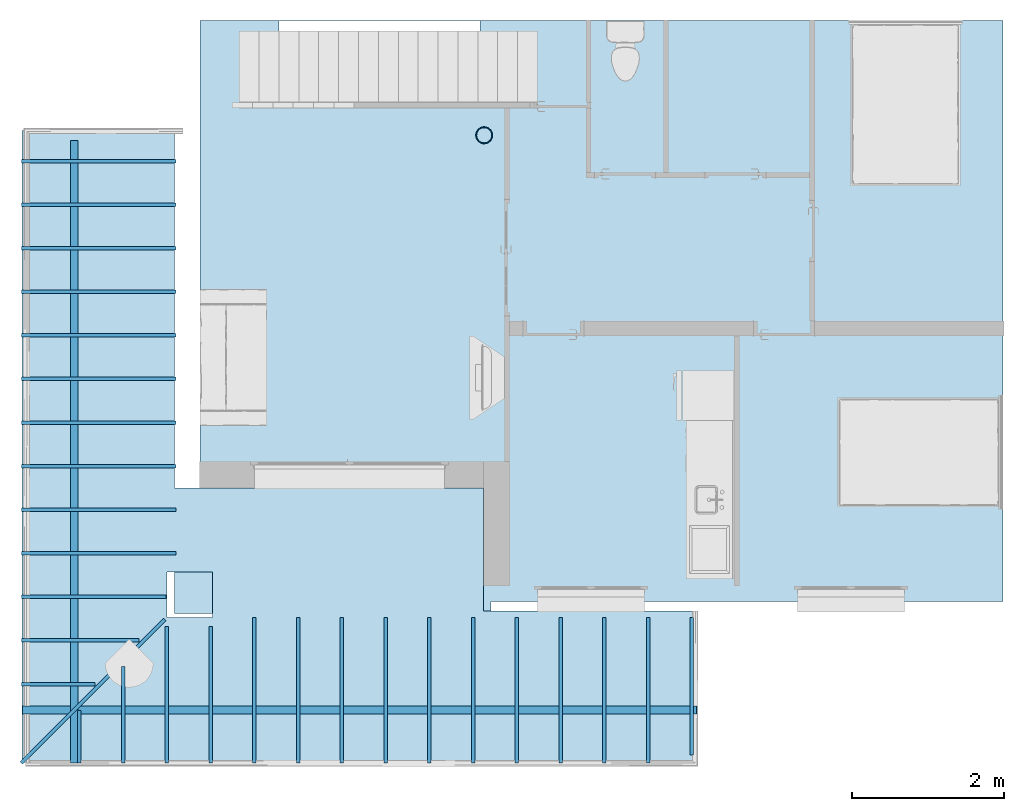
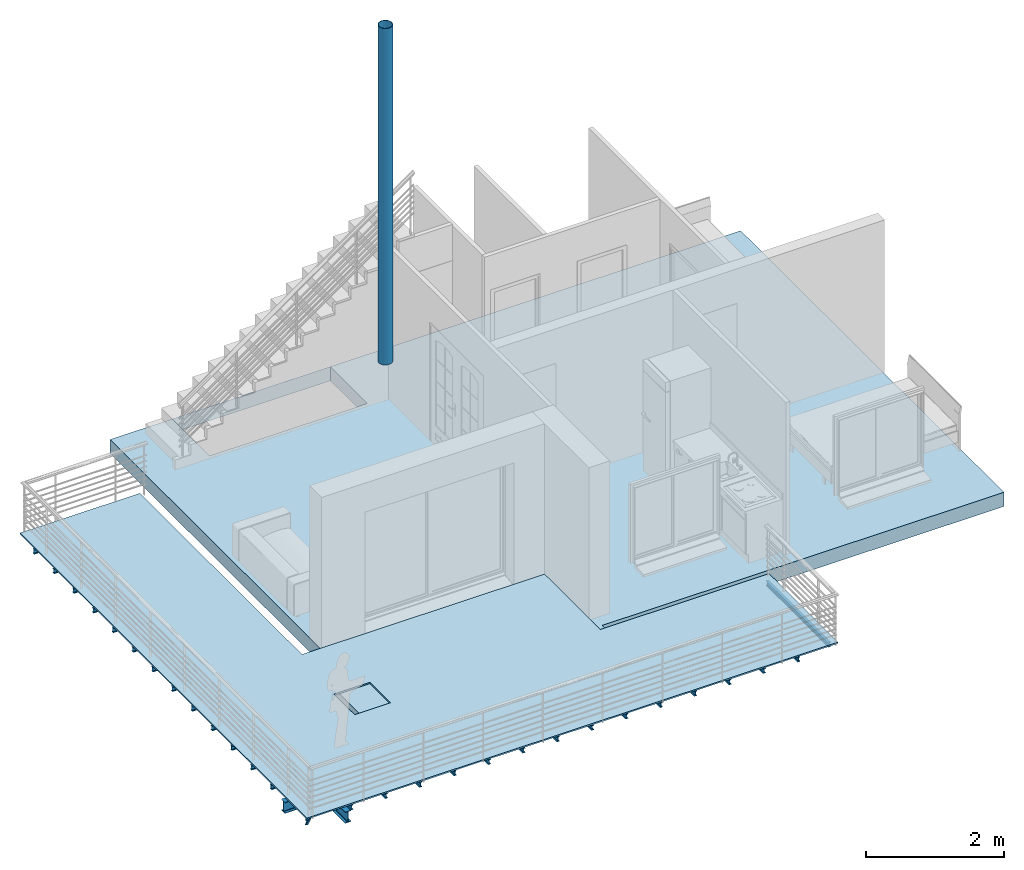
# One storey, part 1 of 15: 31 beams, 2 slabs, 1 column, 2 openings, 2 elements without a shape of their own.
"""IFC2X3 building model written with IfcOpenShell, lengths in metres."""

from ifc_helpers import new_model, entity, si_unit, converted_unit, derived_unit, direction, frame, frame_2d, origin, origin_2d_with_axis, place, context, subcontext, project, spatial, polyline, rectangle, hollow_circle, i_section, outline, extrude, source, transform, mapped, material, layer, layer_set, layer_usage, type_object, type_shapes, element, aggregate, save


model = new_model("IFC2X3")

# Units and contexts
model_context = context("Model", 3, precision=1e-05, world=origin(), true_north=direction((6.12303176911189e-17, 1.0)))
body_context = subcontext(model_context, "Body", "Model", "MODEL_VIEW")
ifc_project = project(units=[si_unit("LENGTHUNIT", "METRE"), si_unit("AREAUNIT", "SQUARE_METRE"), si_unit("VOLUMEUNIT", "CUBIC_METRE"), converted_unit("PLANEANGLEUNIT", "DEGREE", entity("IfcRatioMeasure", 0.0174532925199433), si_unit("PLANEANGLEUNIT", "RADIAN"), dimensions=[0, 0, 0, 0, 0, 0, 0]), si_unit("MASSUNIT", "GRAM", prefix="KILO"), derived_unit("MASSDENSITYUNIT", [(si_unit("MASSUNIT", "GRAM", prefix="KILO"), 1), (si_unit("LENGTHUNIT", "METRE"), -3)]), derived_unit("MOMENTOFINERTIAUNIT", [(si_unit("LENGTHUNIT", "METRE"), 4)]), si_unit("TIMEUNIT", "SECOND"), si_unit("FREQUENCYUNIT", "HERTZ"), si_unit("THERMODYNAMICTEMPERATUREUNIT", "DEGREE_CELSIUS"), derived_unit("THERMALTRANSMITTANCEUNIT", [(si_unit("MASSUNIT", "GRAM", prefix="KILO"), 1), (si_unit("THERMODYNAMICTEMPERATUREUNIT", "KELVIN"), -1), (si_unit("TIMEUNIT", "SECOND"), -3)]), derived_unit("VOLUMETRICFLOWRATEUNIT", [(si_unit("LENGTHUNIT", "METRE"), 3), (si_unit("TIMEUNIT", "SECOND"), -1)]), si_unit("ELECTRICCURRENTUNIT", "AMPERE"), si_unit("ELECTRICVOLTAGEUNIT", "VOLT"), si_unit("POWERUNIT", "WATT"), si_unit("FORCEUNIT", "NEWTON", prefix="KILO"), si_unit("ILLUMINANCEUNIT", "LUX"), si_unit("LUMINOUSFLUXUNIT", "LUMEN"), si_unit("LUMINOUSINTENSITYUNIT", "CANDELA"), derived_unit("USERDEFINED", [(si_unit("MASSUNIT", "GRAM", prefix="KILO"), -1), (si_unit("LENGTHUNIT", "METRE"), -2), (si_unit("TIMEUNIT", "SECOND"), 3), (si_unit("LUMINOUSFLUXUNIT", "LUMEN"), 1)]), derived_unit("LINEARVELOCITYUNIT", [(si_unit("LENGTHUNIT", "METRE"), 1), (si_unit("TIMEUNIT", "SECOND"), -1)]), si_unit("PRESSUREUNIT", "PASCAL"), derived_unit("USERDEFINED", [(si_unit("LENGTHUNIT", "METRE"), -2), (si_unit("MASSUNIT", "GRAM", prefix="KILO"), 1), (si_unit("TIMEUNIT", "SECOND"), -2)]), derived_unit("LINEARFORCEUNIT", [(si_unit("MASSUNIT", "GRAM", prefix="KILO"), 1), (si_unit("LENGTHUNIT", "METRE"), 1), (si_unit("TIMEUNIT", "SECOND"), -2), (si_unit("LENGTHUNIT", "METRE"), -1)]), derived_unit("PLANARFORCEUNIT", [(si_unit("MASSUNIT", "GRAM", prefix="KILO"), 1), (si_unit("LENGTHUNIT", "METRE"), 1), (si_unit("TIMEUNIT", "SECOND"), -2), (si_unit("LENGTHUNIT", "METRE"), -2)])], contexts=[model_context])

# Site, building, storey
site_placement = place(None, origin())
site = spatial("IfcSite", under=ifc_project, at=site_placement, Name="Surface", CompositionType="ELEMENT")
building_placement = place(site_placement, origin())
building = spatial("IfcBuilding", under=site, at=building_placement, CompositionType="ELEMENT")
storey_placement = place(building_placement, frame((0.0, 0.0, 2.65)))
storey = spatial("IfcBuildingStorey", under=building, at=storey_placement, Name="Niveau étage", CompositionType="ELEMENT", Elevation=2.65)

# Column
ifc_material_1 = material(Name="Métal - Acier")
column_type = type_object("IfcColumnType", Name="Profil creux circulaire PCC:219.1x8CHS", PredefinedType="COLUMN", material=ifc_material_1)
shared_shape = source(origin(), body_context, "Body", "SweptSolid", [
    extrude(hollow_circle(Radius=0.10955, WallThickness=0.00799999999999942, at=frame_2d((-5.27018739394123e-18, 1.77146931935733e-16), x_axis=(1.0, 0.0))), frame((0.0, 0.0, 3.65)), (0.0, 0.0, 1.0), 5.95),
])
type_shapes(column_type, [shared_shape])
column_placement = place(storey_placement, frame((5.62439607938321, 5.49473483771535, -2.65)))
element("IfcColumn", 1, at=column_placement, inside=storey, type_object=column_type, material=ifc_material_1, Name="Profil creux circulaire PCC:219.1x8CHS", ObjectType="Profil creux circulaire PCC:219.1x8CHS", context=body_context, shape_type="MappedRepresentation", body=[
    mapped(shared_shape, transform((0.0, 0.0, 0.0), scale=1.0)),
])

# Assembly, beams
assembly_1_placement = place(storey_placement, origin())
assembly_1 = element("IfcElementAssembly", 2, at=assembly_1_placement, inside=storey, Name="Réseau de poutres:Système de poutre - Intervalle fixe 2 m", ObjectType="Réseau de poutres:Système de poutre - Intervalle fixe 2 m", AssemblyPlace="NOTDEFINED", PredefinedType="BEAM_GRID")
ifc_material_2 = material(Name="Métal - Acier - 345 MPa")
beam_type_1 = type_object("IfcBeamType", Name="IPE-Poutrelles:IPE80", PredefinedType="NOTDEFINED")
beam_1_placement = place(assembly_1_placement, frame((-0.455603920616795, 5.15659144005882, 0.0)))
beam_1 = element("IfcBeam", 3, at=beam_1_placement, type_object=beam_type_1, material=ifc_material_2, Name="IPE-Poutrelles:IPE80", ObjectType="IPE-Poutrelles:IPE80", context=body_context, shape_type="SweptSolid", body=[
    extrude(i_section(OverallWidth=0.0460000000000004, OverallDepth=0.0800000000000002, WebThickness=0.00380000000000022, FlangeThickness=0.00520000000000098, FilletRadius=0.00499999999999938, at=frame_2d((8.11850586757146e-16, 0.0), x_axis=(0.0, 1.0))), frame((0.0, 0.0, -0.040000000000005), z_axis=(1.0, 0.0, 0.0), x_axis=(0.0, 0.0, -1.0)), (0.0, 0.0, 1.0), 2.03),
])
beam_2_placement = place(assembly_1_placement, frame((-0.455603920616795, 4.58392477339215, 0.0)))
beam_2 = element("IfcBeam", 4, at=beam_2_placement, type_object=beam_type_1, material=ifc_material_2, Name="IPE-Poutrelles:IPE80", ObjectType="IPE-Poutrelles:IPE80", context=body_context, shape_type="SweptSolid", body=[
    extrude(i_section(OverallWidth=0.0460000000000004, OverallDepth=0.0800000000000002, WebThickness=0.00379999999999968, FlangeThickness=0.00520000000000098, FilletRadius=0.00499999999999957, at=frame_2d((8.11850586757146e-16, -8.11850586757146e-16), x_axis=(0.0, 1.0))), frame((0.0, 0.0, -0.040000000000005), z_axis=(1.0, 0.0, 0.0), x_axis=(0.0, 0.0, -1.0)), (0.0, 0.0, 1.0), 2.03),
])
beam_3_placement = place(assembly_1_placement, frame((-0.455603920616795, 4.01125810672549, 0.0)))
beam_3 = element("IfcBeam", 5, at=beam_3_placement, type_object=beam_type_1, material=ifc_material_2, Name="IPE-Poutrelles:IPE80", ObjectType="IPE-Poutrelles:IPE80", context=body_context, shape_type="SweptSolid", body=[
    extrude(i_section(OverallWidth=0.0460000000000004, OverallDepth=0.0800000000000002, WebThickness=0.00379999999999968, FlangeThickness=0.00520000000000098, FilletRadius=0.00499999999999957, at=frame_2d((8.11850586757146e-16, -2.70616862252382e-16), x_axis=(0.0, 1.0))), frame((0.0, 0.0, -0.040000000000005), z_axis=(1.0, 0.0, 0.0), x_axis=(0.0, 0.0, -1.0)), (0.0, 0.0, 1.0), 2.03),
])
beam_4_placement = place(assembly_1_placement, frame((-0.455603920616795, 3.43859144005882, 0.0)))
beam_4 = element("IfcBeam", 6, at=beam_4_placement, type_object=beam_type_1, material=ifc_material_2, Name="IPE-Poutrelles:IPE80", ObjectType="IPE-Poutrelles:IPE80", context=body_context, shape_type="SweptSolid", body=[
    extrude(i_section(OverallWidth=0.0460000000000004, OverallDepth=0.0800000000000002, WebThickness=0.00379999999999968, FlangeThickness=0.00520000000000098, FilletRadius=0.00499999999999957, at=frame_2d((8.11850586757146e-16, 2.70616862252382e-16), x_axis=(0.0, 1.0))), frame((0.0, 0.0, -0.040000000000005), z_axis=(1.0, 0.0, 0.0), x_axis=(0.0, 0.0, -1.0)), (0.0, 0.0, 1.0), 2.03),
])
beam_5_placement = place(assembly_1_placement, frame((-0.455603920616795, 2.86592477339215, 0.0)))
beam_5 = element("IfcBeam", 7, at=beam_5_placement, type_object=beam_type_1, material=ifc_material_2, Name="IPE-Poutrelles:IPE80", ObjectType="IPE-Poutrelles:IPE80", context=body_context, shape_type="SweptSolid", body=[
    extrude(i_section(OverallWidth=0.0460000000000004, OverallDepth=0.0800000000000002, WebThickness=0.00379999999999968, FlangeThickness=0.00520000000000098, FilletRadius=0.00499999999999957, at=frame_2d((8.11850586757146e-16, 2.70616862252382e-16), x_axis=(0.0, 1.0))), frame((0.0, 0.0, -0.040000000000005), z_axis=(1.0, 0.0, 0.0), x_axis=(0.0, 0.0, -1.0)), (0.0, 0.0, 1.0), 2.03),
])
beam_6_placement = place(assembly_1_placement, frame((-0.455603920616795, 2.29325810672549, 0.0)))
beam_6 = element("IfcBeam", 8, at=beam_6_placement, type_object=beam_type_1, material=ifc_material_2, Name="IPE-Poutrelles:IPE80", ObjectType="IPE-Poutrelles:IPE80", context=body_context, shape_type="SweptSolid", body=[
    extrude(i_section(OverallWidth=0.0460000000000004, OverallDepth=0.0800000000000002, WebThickness=0.00380000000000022, FlangeThickness=0.00520000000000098, FilletRadius=0.00499999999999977, at=frame_2d((8.11850586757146e-16, -2.70616862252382e-16), x_axis=(0.0, 1.0))), frame((0.0, 0.0, -0.040000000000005), z_axis=(1.0, 0.0, 0.0), x_axis=(0.0, 0.0, -1.0)), (0.0, 0.0, 1.0), 2.03),
])
beam_7_placement = place(assembly_1_placement, frame((-0.455603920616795, 1.72059144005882, 0.0)))
beam_7 = element("IfcBeam", 9, at=beam_7_placement, type_object=beam_type_1, material=ifc_material_2, Name="IPE-Poutrelles:IPE80", ObjectType="IPE-Poutrelles:IPE80", context=body_context, shape_type="SweptSolid", body=[
    extrude(i_section(OverallWidth=0.0460000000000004, OverallDepth=0.0800000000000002, WebThickness=0.00380000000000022, FlangeThickness=0.00520000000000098, FilletRadius=0.00499999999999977, at=frame_2d((8.11850586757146e-16, 0.0), x_axis=(0.0, 1.0))), frame((0.0, 0.0, -0.040000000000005), z_axis=(1.0, 0.0, 0.0), x_axis=(0.0, 0.0, -1.0)), (0.0, 0.0, 1.0), 2.03),
])
beam_8_placement = place(assembly_1_placement, frame((-0.455603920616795, 1.14792477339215, 0.0)))
beam_8 = element("IfcBeam", 10, at=beam_8_placement, type_object=beam_type_1, material=ifc_material_2, Name="IPE-Poutrelles:IPE80", ObjectType="IPE-Poutrelles:IPE80", context=body_context, shape_type="SweptSolid", body=[
    extrude(i_section(OverallWidth=0.0460000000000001, OverallDepth=0.0800000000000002, WebThickness=0.00380000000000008, FlangeThickness=0.00520000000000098, FilletRadius=0.00499999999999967, at=frame_2d((8.11850586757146e-16, 6.76542155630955e-17), x_axis=(0.0, 1.0))), frame((0.0, 0.0, -0.040000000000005), z_axis=(1.0, 0.0, 0.0), x_axis=(0.0, 0.0, -1.0)), (0.0, 0.0, 1.0), 2.03),
])
beam_9_placement = place(assembly_1_placement, frame((-0.455603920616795, 0.575258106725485, 0.0)))
beam_9 = element("IfcBeam", 11, at=beam_9_placement, type_object=beam_type_1, material=ifc_material_2, Name="IPE-Poutrelles:IPE80", ObjectType="IPE-Poutrelles:IPE80", context=body_context, shape_type="SweptSolid", body=[
    extrude(i_section(OverallWidth=0.0460000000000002, OverallDepth=0.0800000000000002, WebThickness=0.00380000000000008, FlangeThickness=0.00520000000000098, FilletRadius=0.00499999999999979, at=frame_2d((8.11850586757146e-16, 0.0), x_axis=(0.0, 1.0))), frame((0.0, 0.0, -0.040000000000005), z_axis=(1.0, 0.0, 0.0), x_axis=(0.0, 0.0, -1.0)), (0.0, 0.0, 1.0), 2.03),
])
beam_10_placement = place(assembly_1_placement, frame((-0.455603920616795, 0.0025914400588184, 0.0)))
beam_10 = element("IfcBeam", 12, at=beam_10_placement, type_object=beam_type_1, material=ifc_material_2, Name="IPE-Poutrelles:IPE80", ObjectType="IPE-Poutrelles:IPE80", context=body_context, shape_type="SweptSolid", body=[
    extrude(i_section(OverallWidth=0.0460000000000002, OverallDepth=0.0800000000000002, WebThickness=0.00380000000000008, FlangeThickness=0.00520000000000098, FilletRadius=0.00499999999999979, at=frame_2d((8.11850586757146e-16, 4.16333634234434e-17), x_axis=(0.0, 1.0))), frame((0.0, 0.0, -0.040000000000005), z_axis=(1.0, 0.0, 0.0), x_axis=(0.0, 0.0, -1.0)), (0.0, 0.0, 1.0), 2.03),
])
beam_11_placement = place(assembly_1_placement, frame((-0.455603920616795, -0.570075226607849, 0.0)))
beam_11 = element("IfcBeam", 13, at=beam_11_placement, type_object=beam_type_1, material=ifc_material_2, Name="IPE-Poutrelles:IPE80", ObjectType="IPE-Poutrelles:IPE80", context=body_context, shape_type="SweptSolid", body=[
    extrude(i_section(OverallWidth=0.0460000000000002, OverallDepth=0.0800000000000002, WebThickness=0.00380000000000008, FlangeThickness=0.00520000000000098, FilletRadius=0.00499999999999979, at=frame_2d((8.11850586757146e-16, 0.0), x_axis=(0.0, 1.0))), frame((0.0, 0.0, -0.040000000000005), z_axis=(1.0, 0.0, 0.0), x_axis=(0.0, 0.0, -1.0)), (0.0, 0.0, 1.0), 1.897),
])
beam_12_placement = place(assembly_1_placement, frame((-0.455603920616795, -1.14274189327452, 0.0)))
beam_12 = element("IfcBeam", 14, at=beam_12_placement, type_object=beam_type_1, material=ifc_material_2, Name="IPE-Poutrelles:IPE80", ObjectType="IPE-Poutrelles:IPE80", context=body_context, shape_type="SweptSolid", body=[
    extrude(i_section(OverallWidth=0.0460000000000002, OverallDepth=0.0800000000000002, WebThickness=0.00380000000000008, FlangeThickness=0.00520000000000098, FilletRadius=0.00499999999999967, at=frame_2d((5.41233724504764e-16, -2.02962646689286e-16), x_axis=(0.0, 1.0))), frame((0.000286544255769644, 0.0, -0.040000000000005), z_axis=(1.0, 0.0, 0.0), x_axis=(0.0, 0.0, -1.0)), (0.0, 0.0, 1.0), 1.542),
])
beam_13_placement = place(assembly_1_placement, frame((-0.455603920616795, -1.71540855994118, 0.0)))
beam_13 = element("IfcBeam", 15, at=beam_13_placement, type_object=beam_type_1, material=ifc_material_2, Name="IPE-Poutrelles:IPE80", ObjectType="IPE-Poutrelles:IPE80", context=body_context, shape_type="SweptSolid", body=[
    extrude(i_section(OverallWidth=0.0460000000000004, OverallDepth=0.0800000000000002, WebThickness=0.00380000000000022, FlangeThickness=0.00520000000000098, FilletRadius=0.00499999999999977, at=frame_2d((8.11850586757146e-16, 2.70616862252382e-16), x_axis=(0.0, 1.0))), frame((0.000453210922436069, 0.0, -0.040000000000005), z_axis=(1.0, 0.0, 0.0), x_axis=(0.0, 0.0, -1.0)), (0.0, 0.0, 1.0), 0.969),
])
aggregate(assembly_1, [beam_1, beam_2, beam_3, beam_4, beam_5, beam_6, beam_7, beam_8, beam_9, beam_10, beam_11, beam_12, beam_13])

assembly_2_placement = place(storey_placement, origin())
assembly_2 = element("IfcElementAssembly", 16, at=assembly_2_placement, inside=storey, Name="Réseau de poutres:Système de poutre - Intervalle fixe 2 m", ObjectType="Réseau de poutres:Système de poutre - Intervalle fixe 2 m", AssemblyPlace="NOTDEFINED", PredefinedType="BEAM_GRID")
ifc_material_3 = material(Name="Peinture - Noir")
beam_14_placement = place(assembly_2_placement, frame((7.77986822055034, -0.840741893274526, 0.0), z_axis=(0.0, 0.0, 1.0), x_axis=(0.0, -1.0, 0.0)))
beam_14 = element("IfcBeam", 17, at=beam_14_placement, type_object=beam_type_1, material=ifc_material_3, Name="IPE-Poutrelles:IPE80", ObjectType="IPE-Poutrelles:IPE80", context=body_context, shape_type="SweptSolid", body=[
    extrude(i_section(OverallWidth=0.0460000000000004, OverallDepth=0.0800000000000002, WebThickness=0.00380000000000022, FlangeThickness=0.00520000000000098, FilletRadius=0.00499999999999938, at=frame_2d((8.11850586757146e-16, 0.0), x_axis=(0.0, 1.0))), frame((0.0, 0.0, -0.040000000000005), z_axis=(1.0, 0.0, 0.0), x_axis=(0.0, 0.0, -1.0)), (0.0, 0.0, 1.0), 1.915),
])
beam_15_placement = place(assembly_2_placement, frame((7.20482529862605, -0.840741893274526, 0.0), z_axis=(0.0, 0.0, 1.0), x_axis=(0.0, -1.0, 0.0)))
beam_15 = element("IfcBeam", 18, at=beam_15_placement, type_object=beam_type_1, material=ifc_material_2, Name="IPE-Poutrelles:IPE80", ObjectType="IPE-Poutrelles:IPE80", context=body_context, shape_type="SweptSolid", body=[
    extrude(i_section(OverallWidth=0.0460000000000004, OverallDepth=0.0800000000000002, WebThickness=0.00380000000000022, FlangeThickness=0.00520000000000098, FilletRadius=0.00499999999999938, at=frame_2d((8.11850586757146e-16, 0.0), x_axis=(0.0, 1.0))), frame((0.0, 0.0, -0.040000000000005), z_axis=(1.0, 0.0, 0.0), x_axis=(0.0, 0.0, -1.0)), (0.0, 0.0, 1.0), 1.915),
])
beam_16_placement = place(assembly_2_placement, frame((6.62978237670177, -0.840741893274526, 0.0), z_axis=(0.0, 0.0, 1.0), x_axis=(0.0, -1.0, 0.0)))
beam_16 = element("IfcBeam", 19, at=beam_16_placement, type_object=beam_type_1, material=ifc_material_2, Name="IPE-Poutrelles:IPE80", ObjectType="IPE-Poutrelles:IPE80", context=body_context, shape_type="SweptSolid", body=[
    extrude(i_section(OverallWidth=0.0460000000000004, OverallDepth=0.0800000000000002, WebThickness=0.00380000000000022, FlangeThickness=0.00520000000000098, FilletRadius=0.00499999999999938, at=frame_2d((8.11850586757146e-16, 0.0), x_axis=(0.0, 1.0))), frame((0.0, 0.0, -0.040000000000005), z_axis=(1.0, 0.0, 0.0), x_axis=(0.0, 0.0, -1.0)), (0.0, 0.0, 1.0), 1.915),
])
beam_17_placement = place(assembly_2_placement, frame((6.05473945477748, -0.840741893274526, 0.0), z_axis=(0.0, 0.0, 1.0), x_axis=(0.0, -1.0, 0.0)))
beam_17 = element("IfcBeam", 20, at=beam_17_placement, type_object=beam_type_1, material=ifc_material_2, Name="IPE-Poutrelles:IPE80", ObjectType="IPE-Poutrelles:IPE80", context=body_context, shape_type="SweptSolid", body=[
    extrude(i_section(OverallWidth=0.0460000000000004, OverallDepth=0.0800000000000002, WebThickness=0.00380000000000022, FlangeThickness=0.00520000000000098, FilletRadius=0.00499999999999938, at=frame_2d((8.11850586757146e-16, 0.0), x_axis=(0.0, 1.0))), frame((0.0, 0.0, -0.040000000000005), z_axis=(1.0, 0.0, 0.0), x_axis=(0.0, 0.0, -1.0)), (0.0, 0.0, 1.0), 1.915),
])
beam_18_placement = place(assembly_2_placement, frame((5.4796965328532, -0.840741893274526, 0.0), z_axis=(0.0, 0.0, 1.0), x_axis=(0.0, -1.0, 0.0)))
beam_18 = element("IfcBeam", 21, at=beam_18_placement, type_object=beam_type_1, material=ifc_material_2, Name="IPE-Poutrelles:IPE80", ObjectType="IPE-Poutrelles:IPE80", context=body_context, shape_type="SweptSolid", body=[
    extrude(i_section(OverallWidth=0.0460000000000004, OverallDepth=0.0800000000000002, WebThickness=0.00380000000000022, FlangeThickness=0.00520000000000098, FilletRadius=0.00499999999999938, at=frame_2d((8.11850586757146e-16, 0.0), x_axis=(0.0, 1.0))), frame((0.0, 0.0, -0.040000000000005), z_axis=(1.0, 0.0, 0.0), x_axis=(0.0, 0.0, -1.0)), (0.0, 0.0, 1.0), 1.915),
])
beam_19_placement = place(assembly_2_placement, frame((4.90465361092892, -0.840741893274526, 0.0), z_axis=(0.0, 0.0, 1.0), x_axis=(0.0, -1.0, 0.0)))
beam_19 = element("IfcBeam", 22, at=beam_19_placement, type_object=beam_type_1, material=ifc_material_2, Name="IPE-Poutrelles:IPE80", ObjectType="IPE-Poutrelles:IPE80", context=body_context, shape_type="SweptSolid", body=[
    extrude(i_section(OverallWidth=0.0460000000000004, OverallDepth=0.0800000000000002, WebThickness=0.00380000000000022, FlangeThickness=0.00520000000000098, FilletRadius=0.00499999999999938, at=frame_2d((8.11850586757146e-16, 0.0), x_axis=(0.0, 1.0))), frame((0.0, 0.0, -0.040000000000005), z_axis=(1.0, 0.0, 0.0), x_axis=(0.0, 0.0, -1.0)), (0.0, 0.0, 1.0), 1.915),
])
beam_20_placement = place(assembly_2_placement, frame((4.32961068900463, -0.840741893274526, 0.0), z_axis=(0.0, 0.0, 1.0), x_axis=(0.0, -1.0, 0.0)))
beam_20 = element("IfcBeam", 23, at=beam_20_placement, type_object=beam_type_1, material=ifc_material_2, Name="IPE-Poutrelles:IPE80", ObjectType="IPE-Poutrelles:IPE80", context=body_context, shape_type="SweptSolid", body=[
    extrude(i_section(OverallWidth=0.0460000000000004, OverallDepth=0.0800000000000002, WebThickness=0.00379999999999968, FlangeThickness=0.00520000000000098, FilletRadius=0.00499999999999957, at=frame_2d((8.11850586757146e-16, 2.70616862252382e-16), x_axis=(0.0, 1.0))), frame((0.0, 0.0, -0.040000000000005), z_axis=(1.0, 0.0, 0.0), x_axis=(0.0, 0.0, -1.0)), (0.0, 0.0, 1.0), 1.915),
])
beam_21_placement = place(assembly_2_placement, frame((3.75456776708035, -0.840741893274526, 0.0), z_axis=(0.0, 0.0, 1.0), x_axis=(0.0, -1.0, 0.0)))
beam_21 = element("IfcBeam", 24, at=beam_21_placement, type_object=beam_type_1, material=ifc_material_2, Name="IPE-Poutrelles:IPE80", ObjectType="IPE-Poutrelles:IPE80", context=body_context, shape_type="SweptSolid", body=[
    extrude(i_section(OverallWidth=0.0460000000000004, OverallDepth=0.0800000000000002, WebThickness=0.00379999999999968, FlangeThickness=0.00520000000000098, FilletRadius=0.00499999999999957, at=frame_2d((8.11850586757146e-16, 2.70616862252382e-16), x_axis=(0.0, 1.0))), frame((0.0, 0.0, -0.040000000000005), z_axis=(1.0, 0.0, 0.0), x_axis=(0.0, 0.0, -1.0)), (0.0, 0.0, 1.0), 1.915),
])
beam_22_placement = place(assembly_2_placement, frame((3.17952484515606, -0.840741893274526, 0.0), z_axis=(0.0, 0.0, 1.0), x_axis=(0.0, -1.0, 0.0)))
beam_22 = element("IfcBeam", 25, at=beam_22_placement, type_object=beam_type_1, material=ifc_material_2, Name="IPE-Poutrelles:IPE80", ObjectType="IPE-Poutrelles:IPE80", context=body_context, shape_type="SweptSolid", body=[
    extrude(i_section(OverallWidth=0.0460000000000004, OverallDepth=0.0800000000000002, WebThickness=0.00379999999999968, FlangeThickness=0.00520000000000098, FilletRadius=0.00499999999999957, at=frame_2d((8.11850586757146e-16, 2.70616862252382e-16), x_axis=(0.0, 1.0))), frame((0.0, 0.0, -0.040000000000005), z_axis=(1.0, 0.0, 0.0), x_axis=(0.0, 0.0, -1.0)), (0.0, 0.0, 1.0), 1.915),
])
beam_23_placement = place(assembly_2_placement, frame((2.60448192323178, -0.840741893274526, 0.0), z_axis=(0.0, 0.0, 1.0), x_axis=(0.0, -1.0, 0.0)))
beam_23 = element("IfcBeam", 26, at=beam_23_placement, type_object=beam_type_1, material=ifc_material_2, Name="IPE-Poutrelles:IPE80", ObjectType="IPE-Poutrelles:IPE80", context=body_context, shape_type="SweptSolid", body=[
    extrude(i_section(OverallWidth=0.0460000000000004, OverallDepth=0.0800000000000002, WebThickness=0.00379999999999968, FlangeThickness=0.00520000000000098, FilletRadius=0.00499999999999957, at=frame_2d((8.11850586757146e-16, -2.70616862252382e-16), x_axis=(0.0, 1.0))), frame((0.0, 0.0, -0.040000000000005), z_axis=(1.0, 0.0, 0.0), x_axis=(0.0, 0.0, -1.0)), (0.0, 0.0, 1.0), 1.915),
])
beam_24_placement = place(assembly_2_placement, frame((2.02943900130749, -0.840741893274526, 0.0), z_axis=(0.0, 0.0, 1.0), x_axis=(0.0, -1.0, 0.0)))
beam_24 = element("IfcBeam", 27, at=beam_24_placement, type_object=beam_type_1, material=ifc_material_2, Name="IPE-Poutrelles:IPE80", ObjectType="IPE-Poutrelles:IPE80", context=body_context, shape_type="SweptSolid", body=[
    extrude(i_section(OverallWidth=0.0460000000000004, OverallDepth=0.0800000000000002, WebThickness=0.00380000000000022, FlangeThickness=0.00520000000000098, FilletRadius=0.00499999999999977, at=frame_2d((8.11850586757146e-16, 5.41233724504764e-16), x_axis=(0.0, 1.0))), frame((0.117999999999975, 0.0, -0.040000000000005), z_axis=(1.0, 0.0, 0.0), x_axis=(0.0, 0.0, -1.0)), (0.0, 0.0, 1.0), 1.797),
])
aggregate(assembly_2, [beam_14, beam_15, beam_16, beam_17, beam_18, beam_19, beam_20, beam_21, beam_22, beam_23, beam_24])

# Beams
beam_25_placement = place(storey_placement, frame((1.45439607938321, -0.943322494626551, 0.0), z_axis=(0.0, 0.0, 1.0), x_axis=(0.0, -1.0, 0.0)))
element("IfcBeam", 28, at=beam_25_placement, inside=storey, type_object=beam_type_1, material=ifc_material_2, Name="IPE-Poutrelles:IPE80", ObjectType="IPE-Poutrelles:IPE80", context=body_context, shape_type="SweptSolid", body=[
    extrude(i_section(OverallWidth=0.0460000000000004, OverallDepth=0.0800000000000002, WebThickness=0.00380000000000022, FlangeThickness=0.00520000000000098, FilletRadius=0.00499999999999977, at=frame_2d((8.11850586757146e-16, 0.0), x_axis=(0.0, 1.0))), frame((0.0152096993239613, 0.0, -0.040000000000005), z_axis=(1.0, 0.0, 0.0), x_axis=(0.0, 0.0, -1.0)), (0.0, 0.0, 1.0), 1.797),
])
beam_26_placement = place(storey_placement, frame((0.879353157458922, -1.41835790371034, 0.0), z_axis=(0.0, 0.0, 1.0), x_axis=(0.0, -1.0, 0.0)))
element("IfcBeam", 29, at=beam_26_placement, inside=storey, type_object=beam_type_1, material=ifc_material_2, Name="IPE-Poutrelles:IPE80", ObjectType="IPE-Poutrelles:IPE80", context=body_context, shape_type="SweptSolid", body=[
    extrude(i_section(OverallWidth=0.0460000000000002, OverallDepth=0.0800000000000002, WebThickness=0.00380000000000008, FlangeThickness=0.00520000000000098, FilletRadius=0.00499999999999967, at=frame_2d((5.41233724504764e-16, -6.76542155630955e-17), x_axis=(0.0, 1.0))), frame((0.069191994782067, 0.0, -0.040000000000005), z_axis=(1.0, 0.0, 0.0), x_axis=(0.0, 0.0, -1.0)), (0.0, 0.0, 1.0), 1.268),
])
beam_27_placement = place(storey_placement, frame((1.45439607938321, -0.843314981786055, 0.0), z_axis=(0.0, 0.0, 1.0), x_axis=(-0.707106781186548, -0.707106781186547, 0.0)))
element("IfcBeam", 30, at=beam_27_placement, inside=storey, type_object=beam_type_1, material=ifc_material_2, Name="IPE-Poutrelles:IPE80", ObjectType="IPE-Poutrelles:IPE80", context=body_context, shape_type="SweptSolid", body=[
    extrude(i_section(OverallWidth=0.0460000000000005, OverallDepth=0.0800000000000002, WebThickness=0.0038000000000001, FlangeThickness=0.00520000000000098, FilletRadius=0.00499999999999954, at=frame_2d((5.41233724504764e-16, 3.34801630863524e-16), x_axis=(0.0, 1.0))), frame((0.0362900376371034, 0.0, -0.040000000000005), z_axis=(1.0, 0.0, 0.0), x_axis=(0.0, 0.0, -1.0)), (0.0, 0.0, 1.0), 2.668),
])
beam_28_placement = place(storey_placement, frame((0.304310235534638, -1.99340082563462, 0.0), z_axis=(0.0, 0.0, 1.0), x_axis=(0.0, -1.0, 0.0)))
element("IfcBeam", 31, at=beam_28_placement, inside=storey, type_object=beam_type_1, material=ifc_material_2, Name="IPE-Poutrelles:IPE80", ObjectType="IPE-Poutrelles:IPE80", context=body_context, shape_type="SweptSolid", body=[
    extrude(i_section(OverallWidth=0.0460000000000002, OverallDepth=0.0800000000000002, WebThickness=0.00380000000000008, FlangeThickness=0.00520000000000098, FilletRadius=0.00499999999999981, at=frame_2d((8.11850586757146e-16, 8.50014503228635e-17), x_axis=(0.0, 1.0))), frame((0.069170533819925, 0.0, -0.040000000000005), z_axis=(1.0, 0.0, 0.0), x_axis=(0.0, 0.0, -1.0)), (0.0, 0.0, 1.0), 0.693),
])
beam_29_placement = place(storey_placement, frame((8.35491114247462, -0.840741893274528, 0.0), z_axis=(0.0, 0.0, 1.0), x_axis=(0.0, -1.0, 0.0)))
element("IfcBeam", 32, at=beam_29_placement, inside=storey, type_object=beam_type_1, material=ifc_material_3, Name="IPE-Poutrelles:IPE80", ObjectType="IPE-Poutrelles:IPE80", context=body_context, shape_type="SweptSolid", body=[
    extrude(i_section(OverallWidth=0.0460000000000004, OverallDepth=0.0800000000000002, WebThickness=0.00380000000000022, FlangeThickness=0.00520000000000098, FilletRadius=0.00499999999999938, at=frame_2d((5.41233724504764e-16, 1.08246744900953e-15), x_axis=(0.0, 1.0))), frame((0.0, 0.0, -0.040000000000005), z_axis=(1.0, 0.0, 0.0), x_axis=(0.0, 0.0, -1.0)), (0.0, 0.0, 1.0), 1.81),
])
beam_type_2 = type_object("IfcBeamType", Name="IPE-Poutrelles:IPE200", PredefinedType="NOTDEFINED")
beam_30_placement = place(storey_placement, frame((0.239396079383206, 5.42925810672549, -0.0800000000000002), z_axis=(0.0, 0.0, 1.0), x_axis=(0.0, -1.0, 0.0)))
element("IfcBeam", 33, at=beam_30_placement, inside=storey, type_object=beam_type_2, material=ifc_material_2, Name="IPE-Poutrelles:IPE200", ObjectType="IPE-Poutrelles:IPE200", context=body_context, shape_type="SweptSolid", body=[
    extrude(i_section(OverallWidth=0.1, OverallDepth=0.2, WebThickness=0.00560000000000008, FlangeThickness=0.00850000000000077, FilletRadius=0.012, at=frame_2d((5.41233724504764e-16, 0.0), x_axis=(0.0, 1.0))), frame((0.0, 0.0, -0.100000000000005), z_axis=(1.0, 0.0, 0.0), x_axis=(0.0, 0.0, -1.0)), (0.0, 0.0, 1.0), 8.185),
])
beam_31_placement = place(storey_placement, frame((-0.44387038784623, -2.05574189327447, -0.0800000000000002), z_axis=(-0.00902934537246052, 0.0, 0.999959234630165), x_axis=(0.999959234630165, 0.0, 0.00902934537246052)))
element("IfcBeam", 34, at=beam_31_placement, inside=storey, type_object=beam_type_2, material=ifc_material_2, Name="IPE-Poutrelles:IPE200", ObjectType="IPE-Poutrelles:IPE200", context=body_context, shape_type="SweptSolid", body=[
    extrude(i_section(OverallWidth=0.1, OverallDepth=0.2, WebThickness=0.00560000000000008, FlangeThickness=0.00850000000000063, FilletRadius=0.012, at=frame_2d((5.41233724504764e-16, 1.35308431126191e-16), x_axis=(0.0, 1.0))), frame((0.0, 0.0, -0.100000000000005), z_axis=(1.0, 0.0, 0.0), x_axis=(0.0, 0.0, -1.0)), (0.0, 0.0, 1.0), 8.86),
])

# Slab, opening
ifc_material_4 = material(Name="Maçonnerie - Béton")
ifc_layer_1 = layer(ifc_material_4, 0.25)
ifc_layer_set_1 = layer_set([ifc_layer_1], Name="Sol:Dalle en béton - 250 mm")
ifc_layer_usage_1 = layer_usage(ifc_layer_set_1, "AXIS3", "POSITIVE", 0.0)
slab_type_1 = type_object("IfcSlabType", Name="Sol:Dalle en béton - 250 mm", PredefinedType="FLOOR", material=ifc_layer_set_1)
slab_1_placement = place(storey_placement, frame((1.5543960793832, -0.790741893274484, -0.25)))
slab_1 = element("IfcSlab", 35, at=slab_1_placement, inside=storey, type_object=slab_type_1, material=ifc_layer_usage_1, Name="Sol:Dalle en béton - 250 mm", ObjectType="Sol:Dalle en béton - 250 mm", PredefinedType="FLOOR", context=body_context, shape_type="SweptSolid", body=[
    extrude(outline(polyline([(-5.44249999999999, -3.73523836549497), (1.28250000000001, -3.73523836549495), (1.28250000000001, -3.89523836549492), (5.44250000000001, -3.8952383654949), (5.4425, -2.56523836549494), (5.10728353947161, -2.56523836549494), (5.1072835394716, 3.89523836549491), (-5.4425, 3.89523836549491), (-5.44249999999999, -3.73523836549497)])), frame((5.44250000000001, 3.89523836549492, 0.249999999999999), z_axis=(0.0, 0.0, -1.0), x_axis=(-1.0, 0.0, 0.0)), (0.0, 0.0, 1.0), 0.25),
])
opening_1_placement = place(slab_1_placement, frame((2.69629189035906, 7.2527383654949, 0.249999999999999)))
element("IfcOpeningElement", 36, at=opening_1_placement, cuts=slab_1, Name="Sol:Dalle en béton - 250 mm:2", ObjectType="Opening", context=body_context, shape_type="SweptSolid", body=[
    extrude(rectangle(XDim=2.64258378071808, YDim=1.07452326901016, at=origin_2d_with_axis()), frame((0.0, 0.0, 0.0), z_axis=(0.0, 0.0, -1.0), x_axis=(-1.0, 0.0, 0.0)), (0.0, 0.0, 1.0), 0.25),
])

ifc_material_5 = material(Name="Pin")
ifc_layer_2 = layer(ifc_material_5, 0.025)
ifc_layer_set_2 = layer_set([ifc_layer_2], Name="Sol:plancher bois")
ifc_layer_usage_2 = layer_usage(ifc_layer_set_2, "AXIS3", "POSITIVE", 0.0)
slab_type_2 = type_object("IfcSlabType", Name="Sol:plancher bois", PredefinedType="FLOOR", material=ifc_layer_set_2)
slab_2_placement = place(storey_placement, frame((-0.450603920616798, -2.75574189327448, 0.0150000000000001)))
slab_2 = element("IfcSlab", 37, at=slab_2_placement, inside=storey, type_object=slab_type_2, material=ifc_layer_usage_2, Name="Sol:plancher bois", ObjectType="Sol:plancher bois", PredefinedType="FLOOR", context=body_context, shape_type="SweptSolid", body=[
    extrude(outline(polyline([(4.44336676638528, -4.15749999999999), (4.44336676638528, 4.15749999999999), (2.43836676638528, 4.15749999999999), (2.43836676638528, -0.542023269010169), (-1.6200542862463, -0.542023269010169), (-1.6200542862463, -2.15750000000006), (-4.44336676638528, -2.15750000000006), (-4.44336676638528, -4.15749999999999), (4.44336676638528, -4.15749999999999)])), frame((4.44336676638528, 4.15749999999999, 0.0249999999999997), z_axis=(0.0, 0.0, -1.0), x_axis=(-1.0, 0.0, 0.0)), (0.0, 0.0, 1.0), 0.0250000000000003),
])
opening_2_placement = place(slab_2_placement, frame((2.20500000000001, 2.21499999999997, 0.0249999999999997)))
element("IfcOpeningElement", 38, at=opening_2_placement, cuts=slab_2, Name="Sol:plancher bois:2", ObjectType="Opening", context=body_context, shape_type="SweptSolid", body=[
    extrude(rectangle(XDim=0.600000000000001, YDim=0.599999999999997, at=origin_2d_with_axis()), frame((0.0, 0.0, 0.0), z_axis=(0.0, 0.0, -1.0), x_axis=(-1.0, 0.0, 0.0)), (0.0, 0.0, 1.0), 0.0250000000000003),
])

save(model, "model.ifc")
